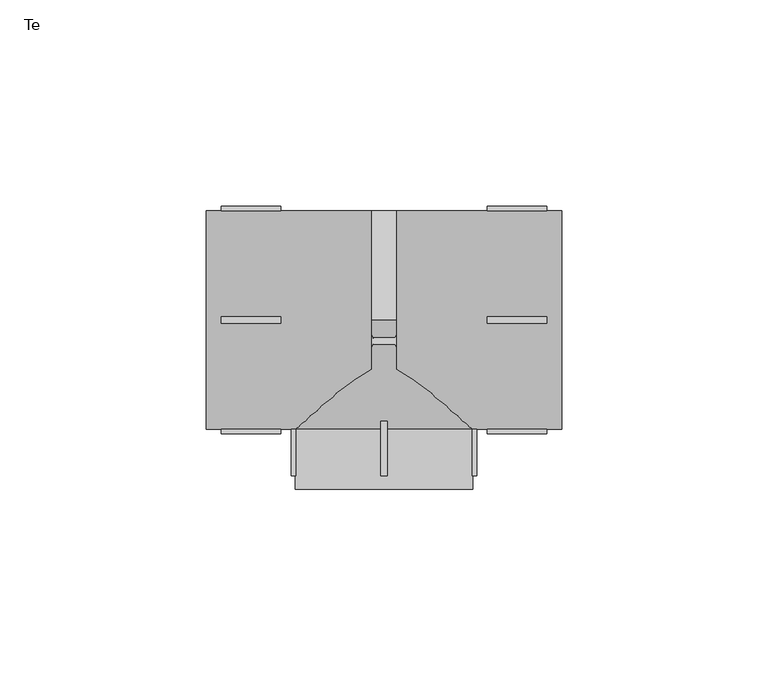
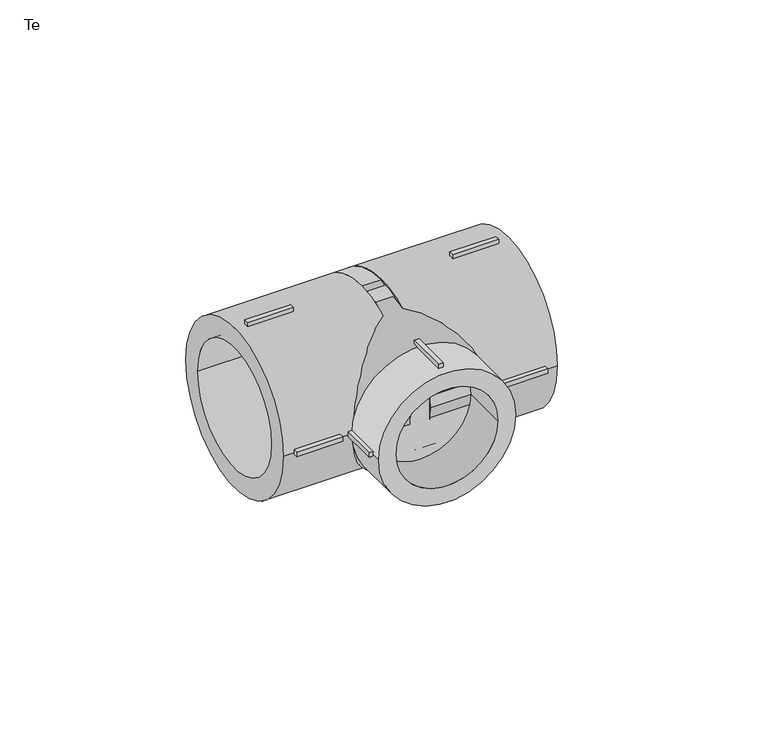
"""IFC4 building model written with IfcOpenShell, lengths in millimetres: pipe fitting geometry, EGB_VASEN_ PPR_Te WXR300_Te reducida WXR310 : Te."""

from ifc_helpers import new_model, si_unit, point, frame, origin, origin_2d, place, context, project, spatial, polyline, circle_curve, trimmed, segment, composite_curve, outline, extrude, source, transform, mapped, element, save
from ifc_brep_helpers import plane_surface, revolved_surface, advanced_brep


def te_864cb950(model_context):
    return source(origin(), model_context, "Body", "SolidModel", [
        extrude(outline(polyline([(-0.75, -24.5), (0.75, -24.5), (0.75, -37.7), (-0.75, -37.7), (-0.75, -24.5)])), frame((0.0, 0.0, 20.5), z_axis=(0.0, 0.0, 1.0), x_axis=(1.0, 0.0, 0.0)), (0.0, 0.0, 1.0), 2.0),
        extrude(outline(polyline([(-0.75, -24.5), (0.75, -24.5), (0.75, -37.7), (-0.75, -37.7), (-0.75, -24.5)])), frame((0.0, 0.0, -22.5), z_axis=(0.0, 0.0, 1.0), x_axis=(1.0, 0.0, 0.0)), (0.0, 0.0, 1.0), 2.0),
        extrude(outline(polyline([(20.5, -24.5), (22.5, -24.5), (22.5, -37.7), (20.5, -37.7), (20.5, -24.5)])), frame((0.0, 0.0, -0.75), z_axis=(0.0, 0.0, 1.0), x_axis=(1.0, 0.0, 0.0)), (0.0, 0.0, 1.0), 1.5),
        extrude(outline(polyline([(-22.5, -24.5), (-20.5, -24.5), (-20.5, -37.7), (-22.5, -37.7), (-22.5, -24.5)])), frame((0.0, 0.0, -0.75), z_axis=(0.0, 0.0, 1.0), x_axis=(1.0, 0.0, 0.0)), (0.0, 0.0, 1.0), 1.5),
        extrude(outline(polyline([(25.0, -0.75), (25.0, 0.75), (39.4, 0.75), (39.4, -0.75), (25.0, -0.75)])), frame((0.0, 0.0, 25.5), z_axis=(0.0, 0.0, 1.0), x_axis=(1.0, 0.0, 0.0)), (0.0, 0.0, 1.0), 2.0),
        extrude(outline(polyline([(25.0, -0.75), (25.0, 0.75), (39.4, 0.75), (39.4, -0.75), (25.0, -0.75)])), frame((0.0, 0.0, -27.5), z_axis=(0.0, 0.0, 1.0), x_axis=(1.0, 0.0, 0.0)), (0.0, 0.0, 1.0), 2.0),
        extrude(outline(polyline([(25.0, 25.5), (25.0, 27.5), (39.4, 27.5), (39.4, 25.5), (25.0, 25.5)])), frame((0.0, 0.0, -0.75), z_axis=(0.0, 0.0, 1.0), x_axis=(1.0, 0.0, 0.0)), (0.0, 0.0, 1.0), 1.5),
        extrude(outline(polyline([(25.0, -27.5), (25.0, -25.5), (39.4, -25.5), (39.4, -27.5), (25.0, -27.5)])), frame((0.0, 0.0, -0.75), z_axis=(0.0, 0.0, 1.0), x_axis=(1.0, 0.0, 0.0)), (0.0, 0.0, 1.0), 1.5),
        extrude(outline(polyline([(-25.0, 0.75), (-25.0, -0.75), (-39.4, -0.75), (-39.4, 0.75), (-25.0, 0.75)])), frame((0.0, 0.0, 25.5), z_axis=(0.0, 0.0, 1.0), x_axis=(1.0, 0.0, 0.0)), (0.0, 0.0, 1.0), 2.0),
        extrude(outline(polyline([(-25.0, 0.75), (-25.0, -0.75), (-39.4, -0.75), (-39.4, 0.75), (-25.0, 0.75)])), frame((0.0, 0.0, -27.5), z_axis=(0.0, 0.0, 1.0), x_axis=(1.0, 0.0, 0.0)), (0.0, 0.0, 1.0), 2.0),
        extrude(outline(polyline([(-25.0, 27.5), (-25.0, 25.5), (-39.4, 25.5), (-39.4, 27.5), (-25.0, 27.5)])), frame((0.0, 0.0, -0.75), z_axis=(0.0, 0.0, 1.0), x_axis=(1.0, 0.0, 0.0)), (0.0, 0.0, 1.0), 1.5),
        extrude(outline(polyline([(-25.0, -25.5), (-25.0, -27.5), (-39.4, -27.5), (-39.4, -25.5), (-25.0, -25.5)])), frame((0.0, 0.0, -0.75), z_axis=(0.0, 0.0, 1.0), x_axis=(1.0, 0.0, 0.0)), (0.0, 0.0, 1.0), 1.5),
        extrude(outline(composite_curve([segment(trimmed(circle_curve(origin_2d(), 21.5), [point((0.0, 21.5))], [point((0.0, -21.5))], False, "CARTESIAN"), True, "CONTINUOUS"), segment(trimmed(circle_curve(origin_2d(), 21.5), [point((0.0, -21.5))], [point((0.0, 21.5))], False, "CARTESIAN"), True, "CONTINUOUS")], self_intersect=False), holes=[composite_curve([segment(trimmed(circle_curve(origin_2d(), 16.0), [point((0.0, 16.0))], [point((0.0, -16.0))], True, "CARTESIAN"), True, "CONTINUOUS"), segment(trimmed(circle_curve(origin_2d(), 16.0), [point((0.0, -16.0))], [point((0.0, 16.0))], True, "CARTESIAN"), True, "CONTINUOUS")], self_intersect=False)]), frame((0.0, -41.0, 0.0), z_axis=(0.0, 1.0, 0.0), x_axis=(0.0, 0.0, 1.0)), (0.0, 0.0, 1.0), 14.5),
        extrude(outline(composite_curve([segment(trimmed(circle_curve(origin_2d(), 26.5), [point((-26.5, 0.0))], [point((26.5, 0.0))], False, "CARTESIAN"), True, "CONTINUOUS"), segment(trimmed(circle_curve(origin_2d(), 26.5), [point((26.5, 0.0))], [point((-26.5, 0.0))], False, "CARTESIAN"), True, "CONTINUOUS")], self_intersect=False), holes=[composite_curve([segment(trimmed(circle_curve(origin_2d(), 20.0), [point((-20.0, 0.0))], [point((20.0, 0.0))], True, "CARTESIAN"), True, "CONTINUOUS"), segment(trimmed(circle_curve(origin_2d(), 20.0), [point((20.0, 0.0))], [point((-20.0, 0.0))], True, "CARTESIAN"), True, "CONTINUOUS")], self_intersect=False)]), frame((3.12, 0.0, 0.0), z_axis=(1.0, 0.0, 0.0), x_axis=(0.0, 1.0, 0.0)), (0.0, 0.0, 1.0), 39.88),
        extrude(outline(composite_curve([segment(trimmed(circle_curve(origin_2d(), 26.5), [point((-26.5, 0.0))], [point((26.5, 0.0))], False, "CARTESIAN"), True, "CONTINUOUS"), segment(trimmed(circle_curve(origin_2d(), 26.5), [point((26.5, 0.0))], [point((-26.5, 0.0))], False, "CARTESIAN"), True, "CONTINUOUS")], self_intersect=False), holes=[composite_curve([segment(trimmed(circle_curve(origin_2d(), 20.0), [point((-20.0, 0.0))], [point((20.0, 0.0))], True, "CARTESIAN"), True, "CONTINUOUS"), segment(trimmed(circle_curve(origin_2d(), 20.0), [point((20.0, 0.0))], [point((-20.0, 0.0))], True, "CARTESIAN"), True, "CONTINUOUS")], self_intersect=False)]), frame((-43.0, 0.0, 0.0), z_axis=(1.0, 0.0, 0.0), x_axis=(0.0, 1.0, 0.0)), (0.0, 0.0, 1.0), 39.88),
        advanced_brep(
        [(26.5, 0.0, 0.0), (-26.5, 0.0, 0.0), (21.5, -26.5, 0.0), (-21.5, -26.5, 0.0)],
        [
            (0, 1, circle_curve(frame((0.0, 0.0, 0.0), z_axis=(0.0, 1.0, 0.0), x_axis=(1.0, 0.0, 0.0)), 26.5)),
            (1, 0, circle_curve(frame((0.0, 0.0, 0.0), z_axis=(0.0, 1.0, 0.0), x_axis=(-1.0, 0.0, 0.0)), 26.5)),
            (2, 3, circle_curve(frame((0.0, -26.5, 0.0), z_axis=(0.0, -1.0, 0.0), x_axis=(-1.0, 0.0, 0.0)), 21.5)),
            (3, 2, circle_curve(frame((0.0, -26.5, 0.0), z_axis=(0.0, -1.0, 0.0), x_axis=(1.0, 0.0, 0.0)), 21.5)),
            (3, 1),
            (0, 2),
        ],
        [
            plane_surface(frame((0.0, 0.0, 0.0), z_axis=(0.0, 1.0, 0.0), x_axis=(0.0, 0.0, -1.0))),
            plane_surface(frame((0.0, -26.5, 0.0), z_axis=(0.0, -1.0, 0.0), x_axis=(0.0, 0.0, -1.0))),
            revolved_surface(polyline([(-21.499999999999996, -26.500000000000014, 0.0), (-26.5, 0.0, 0.0)]), (0.0, -140.45, 0.0), (0.0, 1.0, 0.0)),
            revolved_surface(polyline([(21.499999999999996, -26.500000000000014, 0.0), (26.5, 0.0, 0.0)]), (0.0, -140.45, 0.0), (0.0, 1.0, 0.0)),
        ],
        [
            (0, [[1, 2]]),
            (1, [[3, 4]]),
            (2, [[-4, 5, -1, 6]]),
            (3, [[-3, -6, -2, -5]]),
        ],
    ),
        extrude(outline(composite_curve([segment(trimmed(circle_curve(origin_2d(), 26.5), [point((-26.5, 0.0))], [point((26.5, 0.0))], False, "CARTESIAN"), True, "CONTINUOUS"), segment(trimmed(circle_curve(origin_2d(), 26.5), [point((26.5, 0.0))], [point((-26.5, 0.0))], False, "CARTESIAN"), True, "CONTINUOUS")], self_intersect=False)), frame((-3.12, 0.0, 0.0), z_axis=(1.0, 0.0, 0.0), x_axis=(0.0, 1.0, 0.0)), (0.0, 0.0, 1.0), 6.24),
    ])


if __name__ == "__main__":
    model = new_model("IFC4")
    model_context = context("Model", 3, world=origin())
    ifc_project = project(units=[si_unit("LENGTHUNIT", "METRE", prefix="MILLI")], contexts=[model_context])
    site = spatial("IfcSite", under=ifc_project)
    building = spatial("IfcBuilding", under=site)
    placement = place(None, origin())
    te_shape = te_864cb950(model_context)
    element("IfcPipeFitting", 1, ObjectType="EGB_VASEN_ PPR_Te WXR300_Te reducida WXR310 : Te", at=placement, inside=building, context=model_context, shape_type="MappedRepresentation", body=[
        mapped(te_shape, transform((0.0, 0.0, 0.0), x_axis=(1.0, 0.0, 0.0), y_axis=(0.0, 1.0, 0.0), z_axis=(0.0, 0.0, 1.0))),
    ])
    save(model, "model.ifc")
